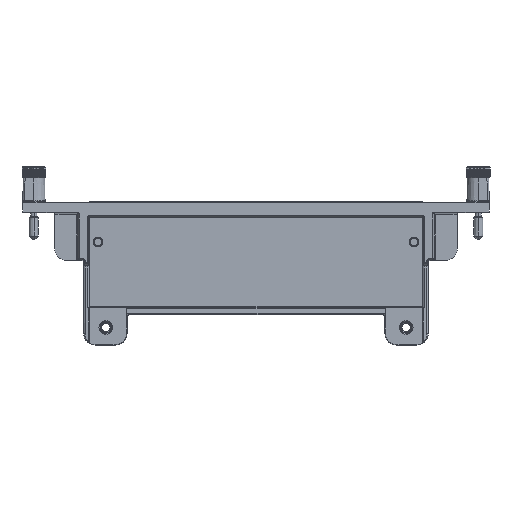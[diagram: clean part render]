
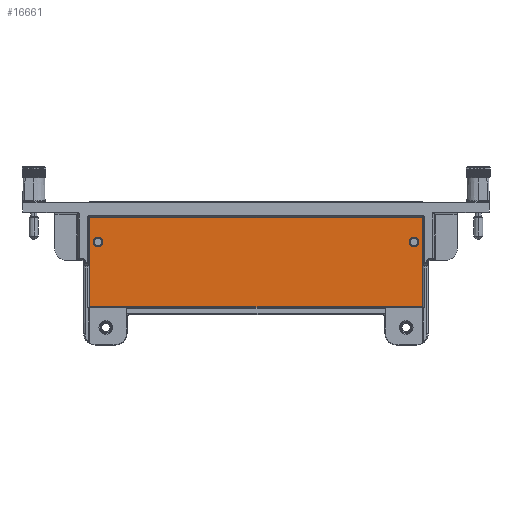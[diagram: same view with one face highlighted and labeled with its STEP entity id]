
A CAD part, left-side view. The second image highlights one B-rep face of the part: STEP entity #16661.
In plain terms, the highlighted planar face has unit normal (-1, 0, 0).
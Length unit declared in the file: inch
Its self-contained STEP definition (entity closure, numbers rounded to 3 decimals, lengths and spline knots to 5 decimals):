
#1=DIRECTION('',(0.,0.,1.));
#2=VECTOR('',#1,0.96717);
#3=CARTESIAN_POINT('',(0.275,-1.80509,-1.02009));
#4=LINE('',#3,#2);
#5=DIRECTION('',(0.,-1.,0.));
#6=VECTOR('',#5,3.61017);
#7=CARTESIAN_POINT('',(0.275,1.80509,-1.02009));
#8=LINE('',#7,#6);
#9=DIRECTION('',(0.,0.,-1.));
#10=VECTOR('',#9,0.96717);
#11=CARTESIAN_POINT('',(0.275,1.80509,-0.05291));
#12=LINE('',#11,#10);
#13=DIRECTION('',(0.,1.,0.));
#14=VECTOR('',#13,3.61017);
#15=CARTESIAN_POINT('',(0.275,-1.80509,-0.05291));
#16=LINE('',#15,#14);
#17=CARTESIAN_POINT('',(0.275,1.7145,-0.315));
#18=DIRECTION('',(1.,0.,0.));
#19=DIRECTION('',(0.,1.,0.));
#20=AXIS2_PLACEMENT_3D('',#17,#18,#19);
#22=CARTESIAN_POINT('',(0.275,1.7145,-0.315));
#23=DIRECTION('',(1.,0.,0.));
#24=DIRECTION('',(0.,-1.,0.));
#25=AXIS2_PLACEMENT_3D('',#22,#23,#24);
#27=CARTESIAN_POINT('',(0.275,-1.7145,-0.315));
#28=DIRECTION('',(1.,0.,0.));
#29=DIRECTION('',(0.,-1.,0.));
#30=AXIS2_PLACEMENT_3D('',#27,#28,#29);
#32=CARTESIAN_POINT('',(0.275,-1.7145,-0.315));
#33=DIRECTION('',(1.,0.,0.));
#34=DIRECTION('',(0.,1.,0.));
#35=AXIS2_PLACEMENT_3D('',#32,#33,#34);
#14581=CARTESIAN_POINT('',(0.275,1.76685,-0.315));
#14582=CARTESIAN_POINT('',(0.275,1.66215,-0.315));
#14583=VERTEX_POINT('',#14581);
#14584=VERTEX_POINT('',#14582);
#14585=CARTESIAN_POINT('',(0.275,-1.76685,-0.315));
#14586=CARTESIAN_POINT('',(0.275,-1.66215,-0.315));
#14587=VERTEX_POINT('',#14585);
#14588=VERTEX_POINT('',#14586);
#14681=CARTESIAN_POINT('',(0.275,-1.80509,-1.02009));
#14682=CARTESIAN_POINT('',(0.275,-1.80509,-0.05291));
#14683=VERTEX_POINT('',#14681);
#14684=VERTEX_POINT('',#14682);
#14689=CARTESIAN_POINT('',(0.275,1.80509,-0.05291));
#14690=VERTEX_POINT('',#14689);
#14695=CARTESIAN_POINT('',(0.275,1.80509,-1.02009));
#14696=VERTEX_POINT('',#14695);
#16634=CARTESIAN_POINT('',(0.275,-2.53315,-1.433));
#16635=DIRECTION('',(-1.,0.,0.));
#16636=DIRECTION('',(0.,0.,1.));
#16637=AXIS2_PLACEMENT_3D('',#16634,#16635,#16636);
#16638=PLANE('',#16637);
#16640=ORIENTED_EDGE('',*,*,#16639,.F.);
#16642=ORIENTED_EDGE('',*,*,#16641,.F.);
#16644=ORIENTED_EDGE('',*,*,#16643,.F.);
#16646=ORIENTED_EDGE('',*,*,#16645,.F.);
#16647=EDGE_LOOP('',(#16640,#16642,#16644,#16646));
#16648=FACE_OUTER_BOUND('',#16647,.F.);
#16650=ORIENTED_EDGE('',*,*,#16649,.F.);
#16652=ORIENTED_EDGE('',*,*,#16651,.F.);
#16653=EDGE_LOOP('',(#16650,#16652));
#16654=FACE_BOUND('',#16653,.F.);
#16656=ORIENTED_EDGE('',*,*,#16655,.F.);
#16658=ORIENTED_EDGE('',*,*,#16657,.F.);
#16659=EDGE_LOOP('',(#16656,#16658));
#16660=FACE_BOUND('',#16659,.F.);
#16661=ADVANCED_FACE('',(#16648,#16654,#16660),#16638,.T.);
#21=CIRCLE('',#20,0.05235);
#26=CIRCLE('',#25,0.05235);
#31=CIRCLE('',#30,0.05235);
#36=CIRCLE('',#35,0.05235);
#16639=EDGE_CURVE('',#14683,#14684,#4,.T.);
#16641=EDGE_CURVE('',#14696,#14683,#8,.T.);
#16643=EDGE_CURVE('',#14690,#14696,#12,.T.);
#16645=EDGE_CURVE('',#14684,#14690,#16,.T.);
#16649=EDGE_CURVE('',#14583,#14584,#21,.T.);
#16651=EDGE_CURVE('',#14584,#14583,#26,.T.);
#16655=EDGE_CURVE('',#14587,#14588,#31,.T.);
#16657=EDGE_CURVE('',#14588,#14587,#36,.T.);
